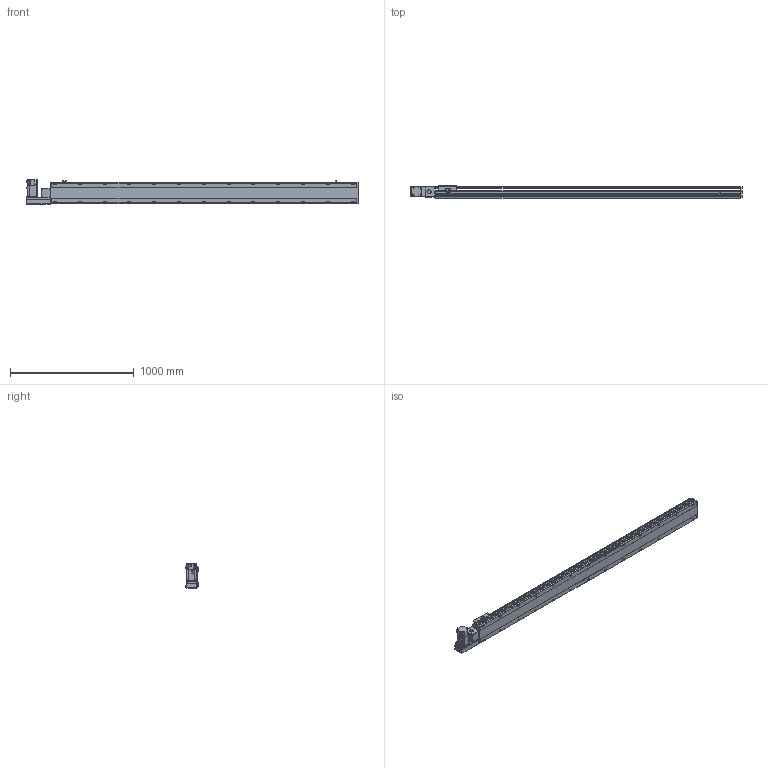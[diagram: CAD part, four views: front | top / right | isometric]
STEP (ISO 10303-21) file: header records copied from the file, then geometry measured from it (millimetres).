
FILE_DESCRIPTION( ( 'STEP AP214' ), '1' );
FILE_NAME( 'x:/temp/worker_3/temp/exporttempdir_5796_118_ogJjs/format_0/PBS170-P40-S2200-L-T75-C1-N(0).stp', '2022-06-07T06:58:23', ( 'License CC BY-ND 4.0' ), ( 'CADENAS' ), ' ', 'PARTsolutions', ' ' );
FILE_SCHEMA( ( 'AUTOMOTIVE_DESIGN { 1 0 10303 214 1 1 1 1 }' ) );
Length unit declared in the file: millimetre
Products named in the file (7): PBS170-P40-S2200-L-T75-C1-N(0); _PBS170-S2200()_body; _PBS170T-L_motors; _T75-p1; _PBS170_sliser; _PBS170_plant; _PBS170_sensor
Assembly tree (8 placements, depth 2):
  PBS170-P40-S2200-L-T75-C1-N(0)
    _PBS170-S2200()_body
    _PBS170T-L_motors
    _T75-p1
    _PBS170_sliser
    _PBS170_plant
    _PBS170_sensor  x3
Bounding box: 2678 x 97 x 197.3 mm (x, y, z)
Volume: 19543025.4 mm3; surface area: 2470893.9 mm2
Topology: 8 solids, 8 shells, 1162 faces, 3075 edges, 2004 vertices
Faces by surface type: plane 717, cylinder 379, cone 56, sphere 8, torus 2
Full cylindrical faces by diameter (mm): 3.242 x4, 4 x2, 4.4 x4, 4.5 x6, 4.917 x4, 6 x9, 6.647 x34, 7 x2, 7.5 x4, 8 x8, 8.5 x26, 10 x4, 10.5 x26, 11 x2, 30 x2, 40 x1, 70 x1
Entity records: 42950 total; most frequent: CARTESIAN_POINT 7061, DIRECTION 5650, ORIENTED_EDGE 5328, EDGE_CURVE 2664, AXIS2_PLACEMENT_3D 1987, VERTEX_POINT 1850, LINE 1676, VECTOR 1676
